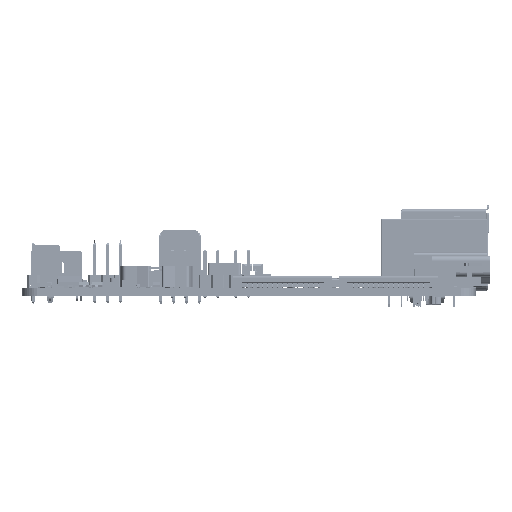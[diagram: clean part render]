
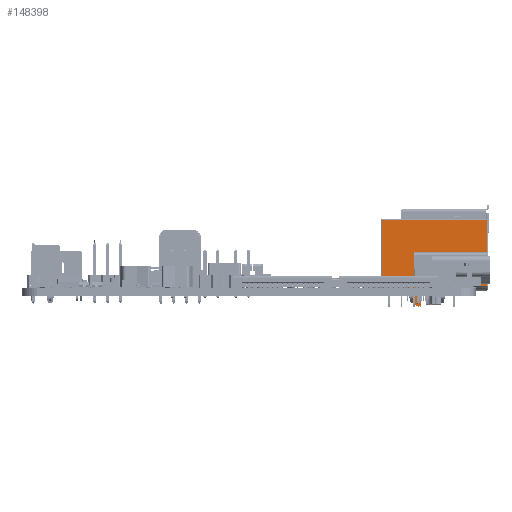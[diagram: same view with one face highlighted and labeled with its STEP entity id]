
A CAD part, left-side view. The second image highlights one B-rep face of the part: STEP entity #148398.
In plain terms, the highlighted planar face has unit normal (-1, 0, 0).
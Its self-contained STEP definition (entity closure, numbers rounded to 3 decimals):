
#143141=DIRECTION('',(0.,-1.,0.));
#143142=VECTOR('',#143141,13.07);
#143143=CARTESIAN_POINT('',(-7.965,6.42,0.23));
#143144=LINE('',#143143,#143142);
#143150=DIRECTION('',(0.,0.,1.));
#143151=VECTOR('',#143150,6.4);
#143152=CARTESIAN_POINT('',(-7.965,-6.65,0.23));
#143153=LINE('',#143152,#143151);
#143154=DIRECTION('',(0.,0.,1.));
#143155=VECTOR('',#143154,12.85);
#143156=CARTESIAN_POINT('',(-7.965,-6.65,8.17));
#143157=LINE('',#143156,#143155);
#143651=CARTESIAN_POINT('',(-7.965,-6.8,8.17));
#143652=DIRECTION('',(-1.,0.,0.));
#143653=DIRECTION('',(0.,1.,0.));
#143654=AXIS2_PLACEMENT_3D('',#143651,#143652,#143653);
#143656=DIRECTION('',(0.,-1.,0.));
#143657=VECTOR('',#143656,3.25);
#143658=CARTESIAN_POINT('',(-7.965,-6.8,8.02));
#143659=LINE('',#143658,#143657);
#143660=CARTESIAN_POINT('',(-7.965,-10.05,7.42));
#143661=DIRECTION('',(1.,0.,0.));
#143662=DIRECTION('',(0.,0.,1.));
#143663=AXIS2_PLACEMENT_3D('',#143660,#143661,#143662);
#143665=DIRECTION('',(0.,0.,-1.));
#143666=VECTOR('',#143665,0.04);
#143667=CARTESIAN_POINT('',(-7.965,-10.65,7.42));
#143668=LINE('',#143667,#143666);
#143669=CARTESIAN_POINT('',(-7.965,-10.05,7.38));
#143670=DIRECTION('',(1.,0.,0.));
#143671=DIRECTION('',(0.,-1.,0.));
#143672=AXIS2_PLACEMENT_3D('',#143669,#143670,#143671);
#143674=CARTESIAN_POINT('',(-7.965,-6.8,6.63));
#143675=DIRECTION('',(-1.,0.,0.));
#143676=DIRECTION('',(0.,0.,1.));
#143677=AXIS2_PLACEMENT_3D('',#143674,#143675,#143676);
#143679=CARTESIAN_POINT('',(-7.965,-6.446,7.409));
#143680=DIRECTION('',(-1.,0.,0.));
#143681=DIRECTION('',(0.,0.,1.));
#143682=AXIS2_PLACEMENT_3D('',#143679,#143680,#143681);
#143684=CARTESIAN_POINT('',(-7.965,-6.446,7.391));
#143685=DIRECTION('',(-1.,0.,0.));
#143686=DIRECTION('',(0.,1.,0.));
#143687=AXIS2_PLACEMENT_3D('',#143684,#143685,#143686);
#143689=CARTESIAN_POINT('',(-7.965,-9.86,
7.391));
#143690=DIRECTION('',(-1.,0.,0.));
#143691=DIRECTION('',(0.,0.,-1.));
#143692=AXIS2_PLACEMENT_3D('',#143689,#143690,#143691);
#143694=CARTESIAN_POINT('',(-7.965,-9.86,7.409));
#143695=DIRECTION('',(-1.,0.,0.));
#143696=DIRECTION('',(0.,-1.,0.));
#143697=AXIS2_PLACEMENT_3D('',#143694,#143695,#143696);
#143699=DIRECTION('',(0.,0.,-1.));
#143700=VECTOR('',#143699,20.79);
#143701=CARTESIAN_POINT('',(-7.965,6.42,21.02));
#143702=LINE('',#143701,#143700);
#143925=DIRECTION('',(0.,1.,0.));
#143926=VECTOR('',#143925,13.07);
#143927=CARTESIAN_POINT('',(-7.965,-6.65,21.02));
#143928=LINE('',#143927,#143926);
#144955=DIRECTION('',(0.,-1.,0.));
#144956=VECTOR('',#144955,3.25);
#144957=CARTESIAN_POINT('',(-7.965,-6.8,6.78));
#144958=LINE('',#144957,#144956);
#145013=DIRECTION('',(0.,-1.,0.));
#145014=VECTOR('',#145013,3.414);
#145015=CARTESIAN_POINT('',(-7.965,-6.446,7.699));
#145016=LINE('',#145015,#145014);
#145031=DIRECTION('',(0.,0.,-1.));
#145032=VECTOR('',#145031,0.018);
#145033=CARTESIAN_POINT('',(-7.965,-10.15,7.409));
#145034=LINE('',#145033,#145032);
#145049=DIRECTION('',(0.,1.,0.));
#145050=VECTOR('',#145049,3.414);
#145051=CARTESIAN_POINT('',(-7.965,-9.86,
7.101));
#145052=LINE('',#145051,#145050);
#145067=DIRECTION('',(0.,0.,1.));
#145068=VECTOR('',#145067,0.018);
#145069=CARTESIAN_POINT('',(-7.965,-6.156,7.391));
#145070=LINE('',#145069,#145068);
#146915=CARTESIAN_POINT('',(-7.965,-6.65,0.23));
#146916=VERTEX_POINT('',#146915);
#146917=CARTESIAN_POINT('',(-7.965,6.42,0.23));
#146918=VERTEX_POINT('',#146917);
#146919=CARTESIAN_POINT('',(-7.965,-6.65,6.63));
#146920=VERTEX_POINT('',#146919);
#146925=CARTESIAN_POINT('',(-7.965,-6.65,8.17));
#146926=VERTEX_POINT('',#146925);
#146927=CARTESIAN_POINT('',(-7.965,-6.65,21.02));
#146928=VERTEX_POINT('',#146927);
#147158=CARTESIAN_POINT('',(-7.965,6.42,21.02));
#147159=VERTEX_POINT('',#147158);
#147160=CARTESIAN_POINT('',(-7.965,-6.8,8.02));
#147161=VERTEX_POINT('',#147160);
#147162=CARTESIAN_POINT('',(-7.965,-10.05,8.02));
#147163=VERTEX_POINT('',#147162);
#147164=CARTESIAN_POINT('',(-7.965,-10.65,7.42));
#147165=VERTEX_POINT('',#147164);
#147166=CARTESIAN_POINT('',(-7.965,-10.65,7.38));
#147167=VERTEX_POINT('',#147166);
#147168=CARTESIAN_POINT('',(-7.965,-10.05,6.78));
#147169=VERTEX_POINT('',#147168);
#147170=CARTESIAN_POINT('',(-7.965,-6.8,6.78));
#147171=VERTEX_POINT('',#147170);
#147172=CARTESIAN_POINT('',(-7.965,-6.446,7.699));
#147173=CARTESIAN_POINT('',(-7.965,-6.156,7.409));
#147174=VERTEX_POINT('',#147172);
#147175=VERTEX_POINT('',#147173);
#147176=CARTESIAN_POINT('',(-7.965,-6.156,7.391));
#147177=VERTEX_POINT('',#147176);
#147178=CARTESIAN_POINT('',(-7.965,-6.446,7.101));
#147179=VERTEX_POINT('',#147178);
#147180=CARTESIAN_POINT('',(-7.965,-9.86,
7.101));
#147181=VERTEX_POINT('',#147180);
#147182=CARTESIAN_POINT('',(-7.965,-10.15,7.391));
#147183=VERTEX_POINT('',#147182);
#147184=CARTESIAN_POINT('',(-7.965,-10.15,7.409));
#147185=VERTEX_POINT('',#147184);
#147186=CARTESIAN_POINT('',(-7.965,-9.86,
7.699));
#147187=VERTEX_POINT('',#147186);
#148352=CARTESIAN_POINT('',(-7.965,6.65,0.));
#148353=DIRECTION('',(-1.,0.,0.));
#148354=DIRECTION('',(0.,-1.,0.));
#148355=AXIS2_PLACEMENT_3D('',#148352,#148353,#148354);
#148356=PLANE('',#148355);
#148357=ORIENTED_EDGE('',*,*,#148049,.F.);
#148359=ORIENTED_EDGE('',*,*,#148358,.F.);
#148361=ORIENTED_EDGE('',*,*,#148360,.F.);
#148362=ORIENTED_EDGE('',*,*,#148068,.F.);
#148364=ORIENTED_EDGE('',*,*,#148363,.T.);
#148366=ORIENTED_EDGE('',*,*,#148365,.T.);
#148368=ORIENTED_EDGE('',*,*,#148367,.T.);
#148370=ORIENTED_EDGE('',*,*,#148369,.T.);
#148372=ORIENTED_EDGE('',*,*,#148371,.T.);
#148374=ORIENTED_EDGE('',*,*,#148373,.F.);
#148376=ORIENTED_EDGE('',*,*,#148375,.T.);
#148377=ORIENTED_EDGE('',*,*,#148060,.F.);
#148378=EDGE_LOOP('',(#148357,#148359,#148361,#148362,#148364,#148366,#148368,
#148370,#148372,#148374,#148376,#148377));
#148379=FACE_OUTER_BOUND('',#148378,.F.);
#148381=ORIENTED_EDGE('',*,*,#148380,.T.);
#148383=ORIENTED_EDGE('',*,*,#148382,.F.);
#148385=ORIENTED_EDGE('',*,*,#148384,.T.);
#148387=ORIENTED_EDGE('',*,*,#148386,.F.);
#148389=ORIENTED_EDGE('',*,*,#148388,.T.);
#148391=ORIENTED_EDGE('',*,*,#148390,.F.);
#148393=ORIENTED_EDGE('',*,*,#148392,.T.);
#148395=ORIENTED_EDGE('',*,*,#148394,.F.);
#148396=EDGE_LOOP('',(#148381,#148383,#148385,#148387,#148389,#148391,#148393,
#148395));
#148397=FACE_BOUND('',#148396,.F.);
#148398=ADVANCED_FACE('',(#148379,#148397),#148356,.T.);
#143655=CIRCLE('',#143654,0.15);
#143664=CIRCLE('',#143663,0.6);
#143673=CIRCLE('',#143672,0.6);
#143678=CIRCLE('',#143677,0.15);
#143683=CIRCLE('',#143682,0.29);
#143688=CIRCLE('',#143687,0.29);
#143693=CIRCLE('',#143692,0.29);
#143698=CIRCLE('',#143697,0.29);
#148049=EDGE_CURVE('',#146918,#146916,#143144,.T.);
#148060=EDGE_CURVE('',#146916,#146920,#143153,.T.);
#148068=EDGE_CURVE('',#146926,#146928,#143157,.T.);
#148358=EDGE_CURVE('',#147159,#146918,#143702,.T.);
#148360=EDGE_CURVE('',#146928,#147159,#143928,.T.);
#148363=EDGE_CURVE('',#146926,#147161,#143655,.T.);
#148365=EDGE_CURVE('',#147161,#147163,#143659,.T.);
#148367=EDGE_CURVE('',#147163,#147165,#143664,.T.);
#148369=EDGE_CURVE('',#147165,#147167,#143668,.T.);
#148371=EDGE_CURVE('',#147167,#147169,#143673,.T.);
#148373=EDGE_CURVE('',#147171,#147169,#144958,.T.);
#148375=EDGE_CURVE('',#147171,#146920,#143678,.T.);
#148380=EDGE_CURVE('',#147174,#147175,#143683,.T.);
#148382=EDGE_CURVE('',#147177,#147175,#145070,.T.);
#148384=EDGE_CURVE('',#147177,#147179,#143688,.T.);
#148386=EDGE_CURVE('',#147181,#147179,#145052,.T.);
#148388=EDGE_CURVE('',#147181,#147183,#143693,.T.);
#148390=EDGE_CURVE('',#147185,#147183,#145034,.T.);
#148392=EDGE_CURVE('',#147185,#147187,#143698,.T.);
#148394=EDGE_CURVE('',#147174,#147187,#145016,.T.);
